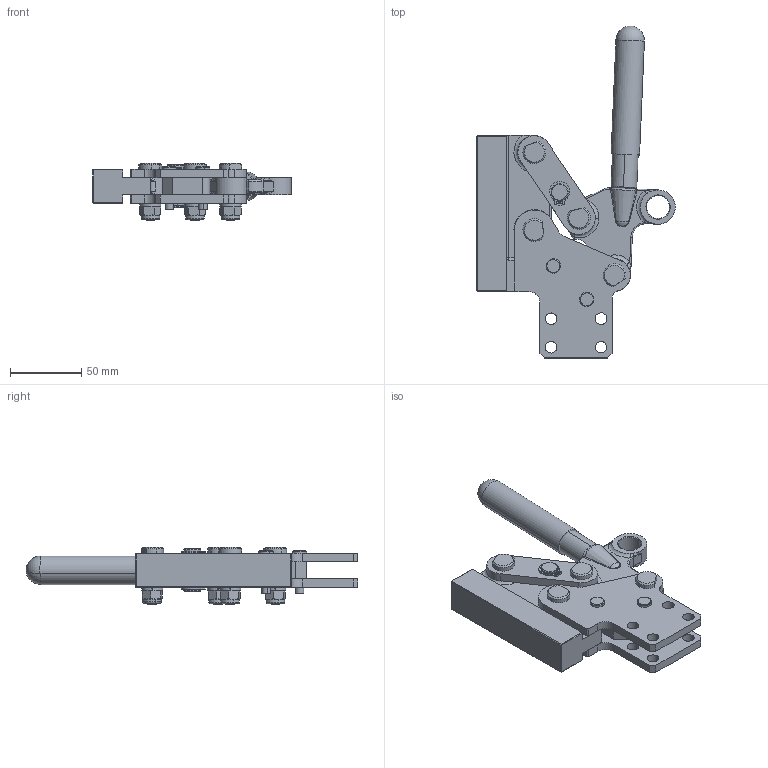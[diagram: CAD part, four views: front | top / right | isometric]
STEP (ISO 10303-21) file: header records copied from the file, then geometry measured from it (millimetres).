
FILE_DESCRIPTION (( 'STEP AP214' ), '1' );
FILE_NAME ('107_B.STEP', '2024-09-11T05:36:57', ( '' ), ( '' ), 'SwSTEP 2.0', 'SolidWorks 2023', '' );
FILE_SCHEMA (( 'AUTOMOTIVE_DESIGN' ));
Length unit declared in the file: millimetre
Products named in the file (16): FZK_107_B_08_00; FZK_107_B_07_00; FZK_107_B_06_00; FZK_107_B_10_00; DALDIRMA SAP; curved spring lock washer_din_Spring washer DIN 128 - A8; prevailing torque nut style 1 insert_din_DIN EN ISO 7040 - M8 - N; 107_B_0302(1210-pap); FZK_107_B_02_00; FZK_107_B_03_00; 107_B; FZK_107_B_01_00; FZK_107_B_04_00; FZK_107_B_05_00; circlip for shafts normal_din_Circlip DIN 471 - 12 x 1; FZK_107_B_09_00
Assembly tree (30 placements, depth 2):
  107_B
    FZK_107_B_02_00  x2
    FZK_107_B_03_00
    FZK_107_B_04_00
    FZK_107_B_01_00
    FZK_107_B_06_00
    FZK_107_B_07_00
    FZK_107_B_09_00  x4
    FZK_107_B_05_00  x2
    FZK_107_B_08_00
    FZK_107_B_10_00
    DALDIRMA SAP
    107_B_0302(1210-pap)  x4
    prevailing torque nut style 1 insert_din_DIN EN ISO 7040 - M8 - N  x4
    curved spring lock washer_din_Spring washer DIN 128 - A8  x4
    circlip for shafts normal_din_Circlip DIN 471 - 12 x 1  x2
Bounding box: 138.93 x 232.42 x 40 mm (x, y, z)
Volume: 275094.7 mm3; surface area: 97641.1 mm2
Topology: 30 solids, 30 shells, 804 faces, 1851 edges, 1113 vertices
Faces by surface type: cylinder 307, plane 212, cone 184, torus 57, bspline 38, sphere 6
Entity records: 17014 total; most frequent: CARTESIAN_POINT 5760, DIRECTION 2376, ORIENTED_EDGE 2148, EDGE_CURVE 1074, AXIS2_PLACEMENT_3D 976, VERTEX_POINT 657, EDGE_LOOP 535, CIRCLE 519
